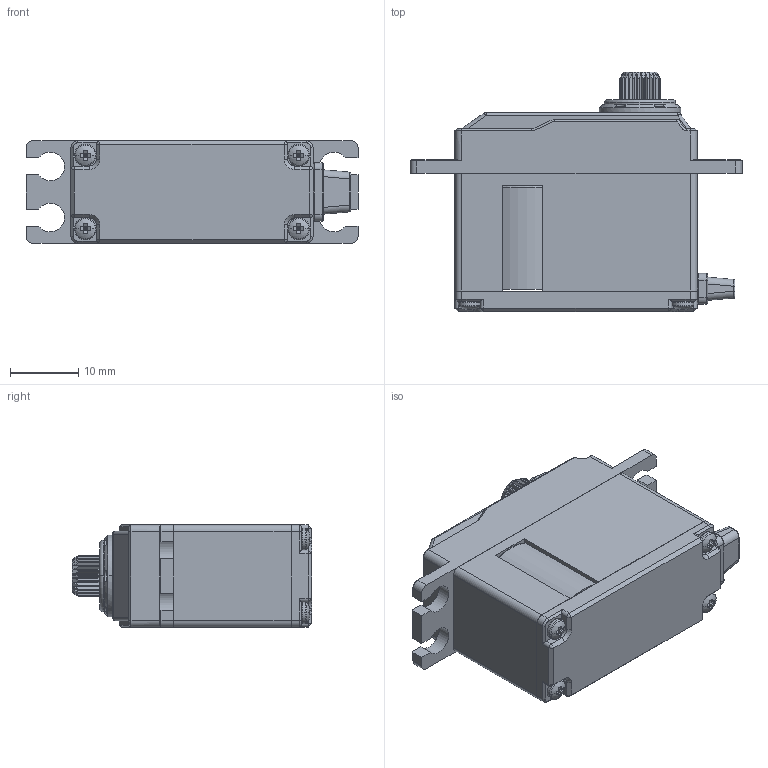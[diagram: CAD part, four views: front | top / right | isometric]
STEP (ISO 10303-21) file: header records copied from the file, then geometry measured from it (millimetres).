
FILE_DESCRIPTION((''),'2;1');
FILE_NAME('DDJ-25GCNC2-A35','2025-06-26T',('扂'),(''),'PRO/ENGINEER BY PARAMETRIC TECHNOLOGY CORPORATION, 2010280','PRO/ENGINEER BY PARAMETRIC TECHNOLOGY CORPORATION, 2010280','');
FILE_SCHEMA(('CONFIG_CONTROL_DESIGN'));
Length unit declared in the file: millimetre
Products named in the file (1): DDJ-25GCNC2-A35
Bounding box: 48.7 x 35.1 x 15 mm (x, y, z)
Volume: 15715.3 mm3; surface area: 5184.3 mm2
Topology: 1 solids, 1 shells, 653 faces, 1688 edges, 1024 vertices
Faces by surface type: plane 324, cylinder 224, cone 44, torus 36, bspline 13, sphere 12
Entity records: 23745 total; most frequent: CARTESIAN_POINT 8167, ORIENTED_EDGE 3340, DIRECTION 3159, EDGE_CURVE 1670, AXIS2_PLACEMENT_3D 1120, VERTEX_POINT 1024, VECTOR 919, LINE 919
